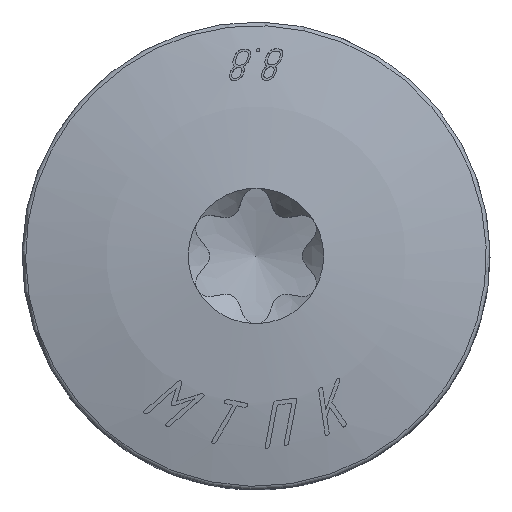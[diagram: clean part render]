
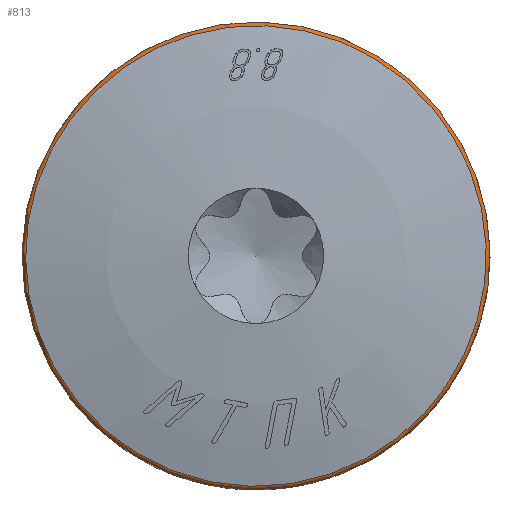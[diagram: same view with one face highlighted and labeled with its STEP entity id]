
A CAD part, top view. The second image highlights one B-rep face of the part: STEP entity #813.
In plain terms, the highlighted toroidal (fillet/blend) face has major radius 11.85 mm and minor radius 0.25 mm.
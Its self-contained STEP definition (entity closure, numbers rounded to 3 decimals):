
#813=ADVANCED_FACE('',(#2774,#2776),#2778,.T.);
#2774=FACE_BOUND('',#2775,.T.);
#2775=EDGE_LOOP('',(#4472,#4473,#4474,#4475));
#2776=FACE_BOUND('',#2777,.T.);
#2777=EDGE_LOOP('',(#4476,#4477,#4478,#4479));
#2778=TOROIDAL_SURFACE('',#2779,11.85,0.25);
#2779=AXIS2_PLACEMENT_3D('',#2780,#2781,#2782);
#2780=CARTESIAN_POINT('',(0.,0.,38.305));
#2781=DIRECTION('',(0.,0.,1.));
#2782=DIRECTION('',(0.878,0.479,0.));
#4472=ORIENTED_EDGE('',*,*,#5880,.T.);
#4473=ORIENTED_EDGE('',*,*,#5881,.T.);
#4474=ORIENTED_EDGE('',*,*,#5882,.T.);
#4475=ORIENTED_EDGE('',*,*,#5883,.T.);
#4476=ORIENTED_EDGE('',*,*,#5557,.F.);
#4477=ORIENTED_EDGE('',*,*,#5556,.F.);
#4478=ORIENTED_EDGE('',*,*,#5555,.F.);
#4479=ORIENTED_EDGE('',*,*,#5554,.F.);
#5554=EDGE_CURVE('',#6234,#6235,#6236,.F.);
#5555=EDGE_CURVE('',#6235,#6237,#6238,.F.);
#5556=EDGE_CURVE('',#6237,#6239,#6240,.F.);
#5557=EDGE_CURVE('',#6239,#6234,#6241,.F.);
#5880=EDGE_CURVE('',#6802,#6803,#6804,.T.);
#5881=EDGE_CURVE('',#6803,#6805,#6806,.T.);
#5882=EDGE_CURVE('',#6805,#6807,#6808,.T.);
#5883=EDGE_CURVE('',#6807,#6802,#6809,.T.);
#6234=VERTEX_POINT('',#7374);
#6235=VERTEX_POINT('',#7375);
#6236=CIRCLE('',#7376,11.91);
#6237=VERTEX_POINT('',#7380);
#6238=CIRCLE('',#7381,11.91);
#6239=VERTEX_POINT('',#7385);
#6240=CIRCLE('',#7386,11.91);
#6241=CIRCLE('',#7390,11.91);
#6802=VERTEX_POINT('',#9960);
#6803=VERTEX_POINT('',#9961);
#6804=CIRCLE('',#9962,12.1);
#6805=VERTEX_POINT('',#9966);
#6806=CIRCLE('',#9967,12.1);
#6807=VERTEX_POINT('',#9971);
#6808=CIRCLE('',#9972,12.1);
#6809=CIRCLE('',#9976,12.1);
#7374=CARTESIAN_POINT('',(11.428,-3.353,38.547));
#7375=CARTESIAN_POINT('',(-8.322,8.52,38.547));
#7376=AXIS2_PLACEMENT_3D('',#7377,#7378,#7379);
#7377=CARTESIAN_POINT('',(0.,0.,38.547));
#7378=DIRECTION('',(0.,0.,-1.));
#7379=DIRECTION('',(-0.699,0.715,0.));
#7380=CARTESIAN_POINT('',(-10.452,-5.71,38.547));
#7381=AXIS2_PLACEMENT_3D('',#7382,#7383,#7384);
#7382=CARTESIAN_POINT('',(0.,0.,38.547));
#7383=DIRECTION('',(0.,0.,-1.));
#7384=DIRECTION('',(-0.878,-0.479,0.));
#7385=CARTESIAN_POINT('',(5.71,-10.452,38.547));
#7386=AXIS2_PLACEMENT_3D('',#7387,#7388,#7389);
#7387=CARTESIAN_POINT('',(0.,0.,38.547));
#7388=DIRECTION('',(0.,0.,-1.));
#7389=DIRECTION('',(0.479,-0.878,0.));
#7390=AXIS2_PLACEMENT_3D('',#7391,#7392,#7393);
#7391=CARTESIAN_POINT('',(0.,0.,38.547));
#7392=DIRECTION('',(0.,0.,-1.));
#7393=DIRECTION('',(0.96,-0.282,0.));
#9960=CARTESIAN_POINT('',(11.611,-3.407,38.305));
#9961=CARTESIAN_POINT('',(10.619,5.801,38.305));
#9962=AXIS2_PLACEMENT_3D('',#9963,#9964,#9965);
#9963=CARTESIAN_POINT('',(0.,0.,38.305));
#9964=DIRECTION('',(0.,0.,1.));
#9965=DIRECTION('',(0.96,-0.282,0.));
#9966=CARTESIAN_POINT('',(-10.619,-5.801,38.305));
#9967=AXIS2_PLACEMENT_3D('',#9968,#9969,#9970);
#9968=CARTESIAN_POINT('',(0.,0.,38.305));
#9969=DIRECTION('',(0.,0.,1.));
#9970=DIRECTION('',(0.878,0.479,0.));
#9971=CARTESIAN_POINT('',(5.801,-10.619,38.305));
#9972=AXIS2_PLACEMENT_3D('',#9973,#9974,#9975);
#9973=CARTESIAN_POINT('',(0.,0.,38.305));
#9974=DIRECTION('',(0.,0.,1.));
#9975=DIRECTION('',(-0.878,-0.479,0.));
#9976=AXIS2_PLACEMENT_3D('',#9977,#9978,#9979);
#9977=CARTESIAN_POINT('',(0.,0.,38.305));
#9978=DIRECTION('',(0.,0.,1.));
#9979=DIRECTION('',(0.479,-0.878,0.));
